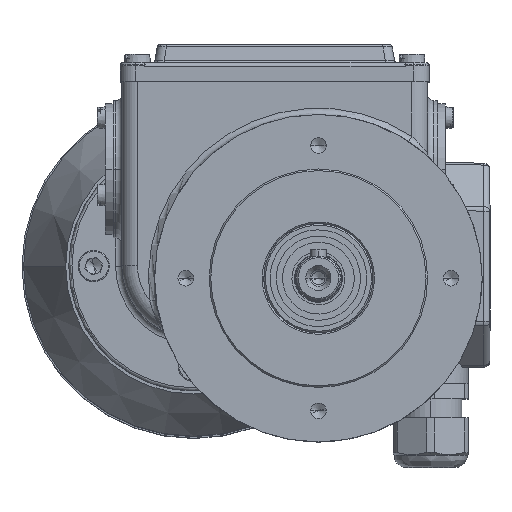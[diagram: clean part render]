
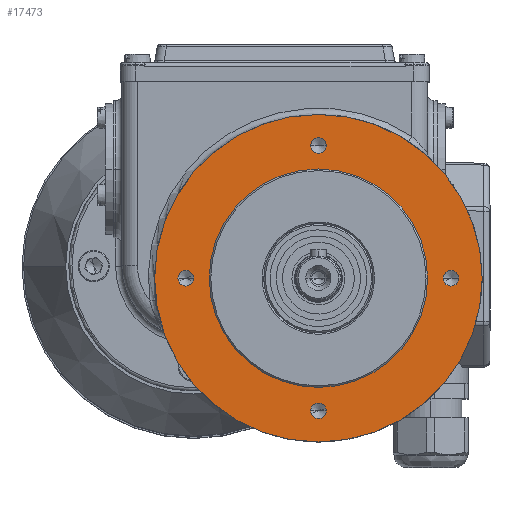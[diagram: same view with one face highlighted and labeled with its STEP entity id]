
A CAD part, top view. The second image highlights one B-rep face of the part: STEP entity #17473.
In plain terms, the highlighted planar face has unit normal (0, 0, 1).
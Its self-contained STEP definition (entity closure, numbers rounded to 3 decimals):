
#596 = DIRECTION ( 'NONE',  ( 0., 1., 0. ) ) ;
#782 = AXIS2_PLACEMENT_3D ( 'NONE', #15764, #13206, #28038 ) ;
#830 = DIRECTION ( 'NONE',  ( 0., 0., 1. ) ) ;
#1285 = VERTEX_POINT ( 'NONE', #22342 ) ;
#1292 = DIRECTION ( 'NONE',  ( 1., 0., 0. ) ) ;
#1294 = CIRCLE ( 'NONE', #782, 52.5 ) ;
#1497 = EDGE_CURVE ( 'NONE', #1285, #10071, #16102, .T. ) ;
#1811 = CIRCLE ( 'NONE', #17654, 2.5 ) ;
#1910 = EDGE_LOOP ( 'NONE', ( #11237, #15957 ) ) ;
#2015 = ORIENTED_EDGE ( 'NONE', *, *, #1497, .F. ) ;
#2038 = FACE_BOUND ( 'NONE', #28732, .T. ) ;
#2394 = CARTESIAN_POINT ( 'NONE',  ( -2.5, -4., 75.5 ) ) ;
#2563 = ORIENTED_EDGE ( 'NONE', *, *, #11569, .F. ) ;
#2579 = CARTESIAN_POINT ( 'NONE',  ( 40., 31., 75.5 ) ) ;
#2991 = AXIS2_PLACEMENT_3D ( 'NONE', #2394, #10226, #7191 ) ;
#4895 = FACE_OUTER_BOUND ( 'NONE', #30263, .T. ) ;
#5383 = DIRECTION ( 'NONE',  ( 0., 0., -1. ) ) ;
#5741 = CARTESIAN_POINT ( 'NONE',  ( 37.5, -46.5, 75.5 ) ) ;
#5840 = ORIENTED_EDGE ( 'NONE', *, *, #10088, .F. ) ;
#6263 = DIRECTION ( 'NONE',  ( 0., 0., -1. ) ) ;
#6502 = DIRECTION ( 'NONE',  ( 0., 0., 1. ) ) ;
#7191 = DIRECTION ( 'NONE',  ( 1., 0., 0. ) ) ;
#7974 = DIRECTION ( 'NONE',  ( 0., 0., 1. ) ) ;
#8034 = ORIENTED_EDGE ( 'NONE', *, *, #13197, .F. ) ;
#8110 = EDGE_CURVE ( 'NONE', #16015, #29656, #1294, .T. ) ;
#8158 = VERTEX_POINT ( 'NONE', #17833 ) ;
#8266 = DIRECTION ( 'NONE',  ( 0., 0., -1. ) ) ;
#8632 = VERTEX_POINT ( 'NONE', #2579 ) ;
#8655 = CARTESIAN_POINT ( 'NONE',  ( 82.5, -4., 75.5 ) ) ;
#9237 = CARTESIAN_POINT ( 'NONE',  ( 40., 31., 75.5 ) ) ;
#9470 = DIRECTION ( 'NONE',  ( 1., 0., 0. ) ) ;
#10071 = VERTEX_POINT ( 'NONE', #26981 ) ;
#10088 = EDGE_CURVE ( 'NONE', #28271, #8158, #28551, .T. ) ;
#10226 = DIRECTION ( 'NONE',  ( 0., 0., 1. ) ) ;
#10255 = ORIENTED_EDGE ( 'NONE', *, *, #17382, .F. ) ;
#10530 = CARTESIAN_POINT ( 'NONE',  ( 40., 48.5, 75.5 ) ) ;
#10693 = DIRECTION ( 'NONE',  ( 1., 0., 0. ) ) ;
#11237 = ORIENTED_EDGE ( 'NONE', *, *, #31471, .F. ) ;
#11425 = AXIS2_PLACEMENT_3D ( 'NONE', #16974, #29246, #9470 ) ;
#11569 = EDGE_CURVE ( 'NONE', #8158, #28271, #24425, .T. ) ;
#11936 = FACE_BOUND ( 'NONE', #28920, .T. ) ;
#12110 = DIRECTION ( 'NONE',  ( 0., 0., 1. ) ) ;
#12137 = DIRECTION ( 'NONE',  ( 1., 0., 0. ) ) ;
#13026 = DIRECTION ( 'NONE',  ( 1., 0., 0. ) ) ;
#13038 = EDGE_LOOP ( 'NONE', ( #26162, #23039 ) ) ;
#13197 = EDGE_CURVE ( 'NONE', #10071, #1285, #13222, .T. ) ;
#13206 = DIRECTION ( 'NONE',  ( 0., 0., -1. ) ) ;
#13222 = CIRCLE ( 'NONE', #13717, 2.5 ) ;
#13684 = CARTESIAN_POINT ( 'NONE',  ( 85., -4., 75.5 ) ) ;
#13717 = AXIS2_PLACEMENT_3D ( 'NONE', #16548, #6502, #23271 ) ;
#14290 = EDGE_CURVE ( 'NONE', #29656, #16015, #22351, .T. ) ;
#14543 = CIRCLE ( 'NONE', #24727, 2.5 ) ;
#14635 = CIRCLE ( 'NONE', #22797, 2.5 ) ;
#14670 = AXIS2_PLACEMENT_3D ( 'NONE', #15396, #6263, #25745 ) ;
#14702 = DIRECTION ( 'NONE',  ( 0., 0., 1. ) ) ;
#14811 = AXIS2_PLACEMENT_3D ( 'NONE', #22350, #7974, #10693 ) ;
#14989 = EDGE_CURVE ( 'NONE', #27099, #30710, #27763, .T. ) ;
#15396 = CARTESIAN_POINT ( 'NONE',  ( 40., -4., 75.5 ) ) ;
#15764 = CARTESIAN_POINT ( 'NONE',  ( 40., -4., 75.5 ) ) ;
#15872 = ORIENTED_EDGE ( 'NONE', *, *, #8110, .F. ) ;
#15957 = ORIENTED_EDGE ( 'NONE', *, *, #14989, .F. ) ;
#16015 = VERTEX_POINT ( 'NONE', #16981 ) ;
#16102 = CIRCLE ( 'NONE', #24763, 2.5 ) ;
#16548 = CARTESIAN_POINT ( 'NONE',  ( 40., 38.5, 75.5 ) ) ;
#16564 = AXIS2_PLACEMENT_3D ( 'NONE', #9237, #12110, #21505 ) ;
#16773 = CARTESIAN_POINT ( 'NONE',  ( 40., -46.5, 75.5 ) ) ;
#16885 = DIRECTION ( 'NONE',  ( 0., 0., 1. ) ) ;
#16974 = CARTESIAN_POINT ( 'NONE',  ( 40., -46.5, 75.5 ) ) ;
#16981 = CARTESIAN_POINT ( 'NONE',  ( 40., -56.5, 75.5 ) ) ;
#17382 = EDGE_CURVE ( 'NONE', #21253, #30143, #14543, .T. ) ;
#17473 = ADVANCED_FACE ( 'NONE', ( #29325, #2038, #21829, #11936, #21658, #4895 ), #26946, .T. ) ;
#17654 = AXIS2_PLACEMENT_3D ( 'NONE', #8655, #830, #1292 ) ;
#17833 = CARTESIAN_POINT ( 'NONE',  ( -5., -4., 75.5 ) ) ;
#18158 = CARTESIAN_POINT ( 'NONE',  ( 40., -4., 75.5 ) ) ;
#19577 = CARTESIAN_POINT ( 'NONE',  ( 42.5, -46.5, 75.5 ) ) ;
#19757 = CARTESIAN_POINT ( 'NONE',  ( 40., -39., 75.5 ) ) ;
#20230 = DIRECTION ( 'NONE',  ( 0., 1., 0. ) ) ;
#20391 = CARTESIAN_POINT ( 'NONE',  ( 40., -4., 75.5 ) ) ;
#20826 = VERTEX_POINT ( 'NONE', #19757 ) ;
#21008 = CIRCLE ( 'NONE', #25100, 35. ) ;
#21253 = VERTEX_POINT ( 'NONE', #22110 ) ;
#21494 = EDGE_CURVE ( 'NONE', #8632, #20826, #28424, .T. ) ;
#21505 = DIRECTION ( 'NONE',  ( 0., -1., 0. ) ) ;
#21658 = FACE_BOUND ( 'NONE', #13038, .T. ) ;
#21829 = FACE_BOUND ( 'NONE', #1910, .T. ) ;
#22110 = CARTESIAN_POINT ( 'NONE',  ( 80., -4., 75.5 ) ) ;
#22342 = CARTESIAN_POINT ( 'NONE',  ( 42.5, 38.5, 75.5 ) ) ;
#22350 = CARTESIAN_POINT ( 'NONE',  ( -2.5, -4., 75.5 ) ) ;
#22351 = CIRCLE ( 'NONE', #27461, 52.5 ) ;
#22797 = AXIS2_PLACEMENT_3D ( 'NONE', #16773, #14702, #12137 ) ;
#22931 = DIRECTION ( 'NONE',  ( 0., 0., 1. ) ) ;
#23039 = ORIENTED_EDGE ( 'NONE', *, *, #25051, .T. ) ;
#23271 = DIRECTION ( 'NONE',  ( 1., 0., 0. ) ) ;
#23832 = CARTESIAN_POINT ( 'NONE',  ( 0., -4., 75.5 ) ) ;
#23894 = CARTESIAN_POINT ( 'NONE',  ( 40., 38.5, 75.5 ) ) ;
#24205 = DIRECTION ( 'NONE',  ( 1., 0., 0. ) ) ;
#24235 = ORIENTED_EDGE ( 'NONE', *, *, #29419, .F. ) ;
#24425 = CIRCLE ( 'NONE', #2991, 2.5 ) ;
#24495 = ORIENTED_EDGE ( 'NONE', *, *, #14290, .F. ) ;
#24727 = AXIS2_PLACEMENT_3D ( 'NONE', #27705, #22931, #13026 ) ;
#24763 = AXIS2_PLACEMENT_3D ( 'NONE', #23894, #16885, #24205 ) ;
#25051 = EDGE_CURVE ( 'NONE', #20826, #8632, #21008, .T. ) ;
#25100 = AXIS2_PLACEMENT_3D ( 'NONE', #18158, #5383, #20230 ) ;
#25444 = EDGE_LOOP ( 'NONE', ( #2015, #8034 ) ) ;
#25745 = DIRECTION ( 'NONE',  ( 0., 1., 0. ) ) ;
#26162 = ORIENTED_EDGE ( 'NONE', *, *, #21494, .T. ) ;
#26946 = PLANE ( 'NONE',  #16564 ) ;
#26981 = CARTESIAN_POINT ( 'NONE',  ( 37.5, 38.5, 75.5 ) ) ;
#27099 = VERTEX_POINT ( 'NONE', #5741 ) ;
#27461 = AXIS2_PLACEMENT_3D ( 'NONE', #20391, #8266, #596 ) ;
#27705 = CARTESIAN_POINT ( 'NONE',  ( 82.5, -4., 75.5 ) ) ;
#27763 = CIRCLE ( 'NONE', #11425, 2.5 ) ;
#28038 = DIRECTION ( 'NONE',  ( 0., 1., 0. ) ) ;
#28271 = VERTEX_POINT ( 'NONE', #23832 ) ;
#28424 = CIRCLE ( 'NONE', #14670, 35. ) ;
#28551 = CIRCLE ( 'NONE', #14811, 2.5 ) ;
#28732 = EDGE_LOOP ( 'NONE', ( #5840, #2563 ) ) ;
#28920 = EDGE_LOOP ( 'NONE', ( #24235, #10255 ) ) ;
#29246 = DIRECTION ( 'NONE',  ( 0., 0., 1. ) ) ;
#29325 = FACE_BOUND ( 'NONE', #25444, .T. ) ;
#29419 = EDGE_CURVE ( 'NONE', #30143, #21253, #1811, .T. ) ;
#29656 = VERTEX_POINT ( 'NONE', #10530 ) ;
#30143 = VERTEX_POINT ( 'NONE', #13684 ) ;
#30263 = EDGE_LOOP ( 'NONE', ( #24495, #15872 ) ) ;
#30710 = VERTEX_POINT ( 'NONE', #19577 ) ;
#31471 = EDGE_CURVE ( 'NONE', #30710, #27099, #14635, .T. ) ;
